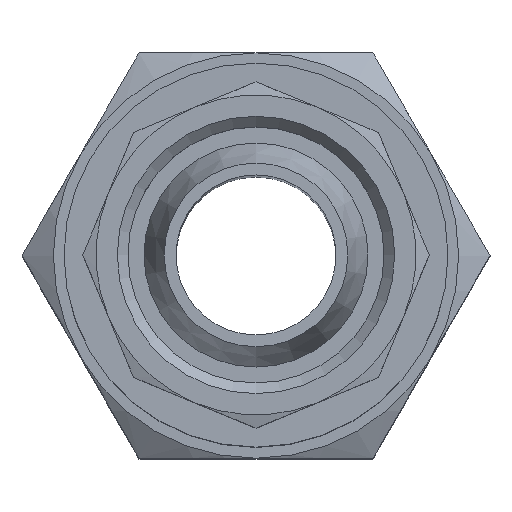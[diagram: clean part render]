
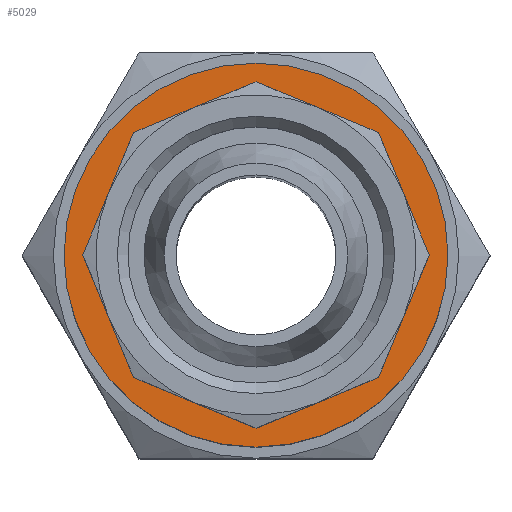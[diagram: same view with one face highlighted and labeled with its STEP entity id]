
A CAD part, top view. The second image highlights one B-rep face of the part: STEP entity #5029.
In plain terms, the highlighted planar face has unit normal (0, 0, 1) as drawn and (0, 1, 0) by its records, which use the part's own axes.
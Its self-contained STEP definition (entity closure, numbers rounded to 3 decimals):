
#25=VECTOR('',#3913,1.);
#28=VECTOR('',#3924,1.);
#30=VECTOR('',#3934,1.);
#32=VECTOR('',#3944,1.);
#34=VECTOR('',#3954,1.);
#36=VECTOR('',#3964,1.);
#38=VECTOR('',#3974,1.);
#39=VECTOR('',#3981,1.);
#69=LINE('',#4433,#25);
#72=LINE('',#4442,#28);
#74=LINE('',#4450,#30);
#76=LINE('',#4458,#32);
#78=LINE('',#4466,#34);
#80=LINE('',#4474,#36);
#82=LINE('',#4482,#38);
#83=LINE('',#4486,#39);
#2669=ORIENTED_EDGE('',*,*,#3159,.T.);
#2670=ORIENTED_EDGE('',*,*,#3148,.F.);
#2671=ORIENTED_EDGE('',*,*,#3152,.F.);
#2672=ORIENTED_EDGE('',*,*,#3156,.F.);
#2673=ORIENTED_EDGE('',*,*,#3158,.F.);
#2674=ORIENTED_EDGE('',*,*,#3131,.F.);
#2675=ORIENTED_EDGE('',*,*,#3136,.F.);
#2676=ORIENTED_EDGE('',*,*,#3140,.F.);
#2677=ORIENTED_EDGE('',*,*,#3144,.F.);
#2847=CIRCLE('',#4829,9.);
#2955=VERTEX_POINT('',#4430);
#2956=VERTEX_POINT('',#4432);
#2958=VERTEX_POINT('',#4440);
#2960=VERTEX_POINT('',#4448);
#2962=VERTEX_POINT('',#4456);
#2964=VERTEX_POINT('',#4464);
#2966=VERTEX_POINT('',#4472);
#2968=VERTEX_POINT('',#4480);
#2969=VERTEX_POINT('',#4488);
#3131=EDGE_CURVE('',#2955,#2956,#69,.T.);
#3136=EDGE_CURVE('',#2958,#2955,#72,.T.);
#3140=EDGE_CURVE('',#2960,#2958,#74,.T.);
#3144=EDGE_CURVE('',#2962,#2960,#76,.T.);
#3148=EDGE_CURVE('',#2964,#2962,#78,.T.);
#3152=EDGE_CURVE('',#2966,#2964,#80,.T.);
#3156=EDGE_CURVE('',#2968,#2966,#82,.T.);
#3158=EDGE_CURVE('',#2956,#2968,#83,.T.);
#3159=EDGE_CURVE('',#2969,#2969,#2847,.T.);
#3324=EDGE_LOOP('',(#2669));
#3325=EDGE_LOOP('',(#2670,#2671,#2672,#2673,#2674,#2675,#2676,#2677));
#3484=FACE_BOUND('',#3324,.T.);
#3485=FACE_BOUND('',#3325,.T.);
#3913=DIRECTION('',(-5.74,0.,2.378));
#3924=DIRECTION('',(-5.74,0.,-2.378));
#3934=DIRECTION('',(-2.378,0.,-5.74));
#3944=DIRECTION('',(2.378,0.,-5.74));
#3954=DIRECTION('',(5.74,0.,-2.378));
#3964=DIRECTION('',(5.74,0.,2.378));
#3974=DIRECTION('',(2.378,0.,5.74));
#3981=DIRECTION('',(-2.378,0.,5.74));
#3982=DIRECTION('',(0.,1.,0.));
#3983=DIRECTION('',(1.,0.,0.));
#3984=DIRECTION('',(0.,1.,0.));
#3985=DIRECTION('',(0.,0.,-9.));
#4430=CARTESIAN_POINT('',(26.989,25.395,-8.118));
#4432=CARTESIAN_POINT('',(21.249,25.395,-5.74));
#4433=CARTESIAN_POINT('',(26.989,25.395,-8.118));
#4440=CARTESIAN_POINT('',(32.729,25.395,-5.74));
#4442=CARTESIAN_POINT('',(32.729,25.395,-5.74));
#4448=CARTESIAN_POINT('',(35.107,25.395,0.));
#4450=CARTESIAN_POINT('',(35.107,25.395,0.));
#4456=CARTESIAN_POINT('',(32.729,25.395,5.74));
#4458=CARTESIAN_POINT('',(32.729,25.395,5.74));
#4464=CARTESIAN_POINT('',(26.989,25.395,8.118));
#4466=CARTESIAN_POINT('',(26.989,25.395,8.118));
#4472=CARTESIAN_POINT('',(21.249,25.395,5.74));
#4474=CARTESIAN_POINT('',(21.249,25.395,5.74));
#4480=CARTESIAN_POINT('',(18.871,25.395,0.));
#4482=CARTESIAN_POINT('',(18.871,25.395,0.));
#4486=CARTESIAN_POINT('',(21.249,25.395,-5.74));
#4487=CARTESIAN_POINT('',(26.989,25.395,-9.));
#4488=CARTESIAN_POINT('',(26.989,25.395,-9.));
#4489=CARTESIAN_POINT('',(26.989,25.395,0.));
#4828=AXIS2_PLACEMENT_3D('',#4487,#3982,#3983);
#4829=AXIS2_PLACEMENT_3D('',#4489,#3984,#3985);
#4935=PLANE('',#4828);
#5029=ADVANCED_FACE('',(#3484,#3485),#4935,.T.);
